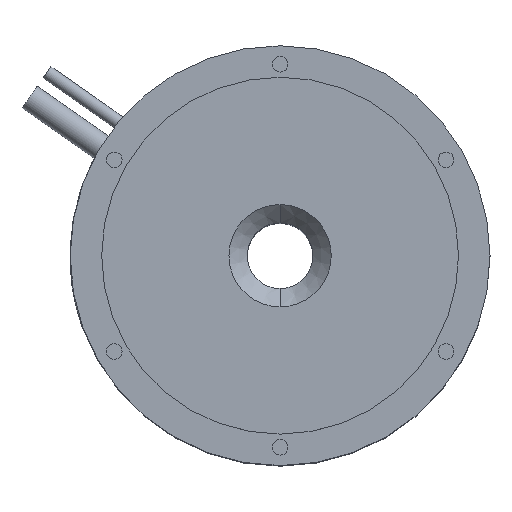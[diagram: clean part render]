
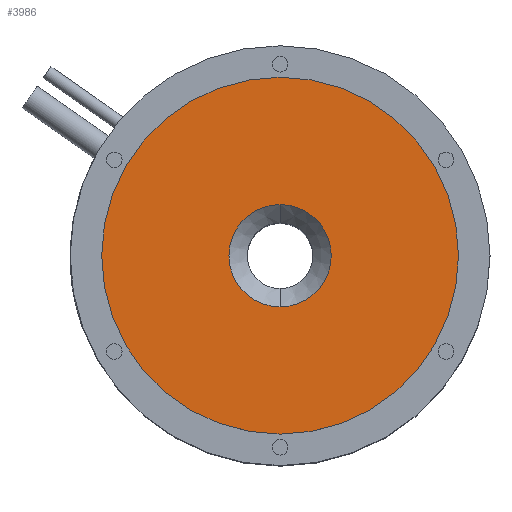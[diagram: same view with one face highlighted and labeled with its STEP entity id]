
A CAD part, top view. The second image highlights one B-rep face of the part: STEP entity #3986.
In plain terms, the highlighted planar face has unit normal (0, 0, 1).
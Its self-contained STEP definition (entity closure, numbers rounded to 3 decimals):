
#656 = VERTEX_POINT ( 'NONE', #5502 ) ;
#657 = VERTEX_POINT ( 'NONE', #5501 ) ;
#668 = EDGE_CURVE ( 'NONE', #656, #657, #5541, .T. ) ;
#946 = CARTESIAN_POINT ( 'NONE',  ( 0., 19.5, 143. ) ) ;
#968 = DIRECTION ( 'NONE',  ( 0., -1., 0. ) ) ;
#969 = DIRECTION ( 'NONE',  ( 0., 0., -1. ) ) ;
#970 = CARTESIAN_POINT ( 'NONE',  ( 0., 0., 143. ) ) ;
#971 = AXIS2_PLACEMENT_3D ( 'NONE', #970, #969, #968 ) ;
#973 = CIRCLE ( 'NONE', #971, 19.5 ) ;
#974 = CARTESIAN_POINT ( 'NONE',  ( 0., -19.5, 143. ) ) ;
#1562 = CIRCLE ( 'NONE', #1856, 68. ) ;
#1850 = DIRECTION ( 'NONE',  ( 0., 1., 0. ) ) ;
#1856 = AXIS2_PLACEMENT_3D ( 'NONE', #1861, #1868, #1850 ) ;
#1861 = CARTESIAN_POINT ( 'NONE',  ( 0., 0., 143. ) ) ;
#1868 = DIRECTION ( 'NONE',  ( 0., 0., -1. ) ) ;
#2034 = DIRECTION ( 'NONE',  ( 0., 0., -1. ) ) ;
#2035 = CARTESIAN_POINT ( 'NONE',  ( 0., 0., 143. ) ) ;
#2036 = AXIS2_PLACEMENT_3D ( 'NONE', #2035, #2034, #2090 ) ;
#2037 = DIRECTION ( 'NONE',  ( 0., -1., 0. ) ) ;
#2041 = FACE_OUTER_BOUND ( 'NONE', #4052, .T. ) ;
#2047 = CIRCLE ( 'NONE', #2036, 19.5 ) ;
#2052 = AXIS2_PLACEMENT_3D ( 'NONE', #2058, #2053, #2037 ) ;
#2053 = DIRECTION ( 'NONE',  ( 0., 0., 1. ) ) ;
#2058 = CARTESIAN_POINT ( 'NONE',  ( 0., -12.5, 143. ) ) ;
#2059 = FACE_BOUND ( 'NONE', #3977, .T. ) ;
#2061 = PLANE ( 'NONE',  #2052 ) ;
#2090 = DIRECTION ( 'NONE',  ( 0., -1., 0. ) ) ;
#3430 = VERTEX_POINT ( 'NONE', #946 ) ;
#3442 = VERTEX_POINT ( 'NONE', #974 ) ;
#3444 = EDGE_CURVE ( 'NONE', #3442, #3430, #973, .T. ) ;
#3977 = EDGE_LOOP ( 'NONE', ( #3982, #3985 ) ) ;
#3982 = ORIENTED_EDGE ( 'NONE', *, *, #3444, .T. ) ;
#3984 = ORIENTED_EDGE ( 'NONE', *, *, #668, .F. ) ;
#3985 = ORIENTED_EDGE ( 'NONE', *, *, #3987, .T. ) ;
#3986 = ADVANCED_FACE ( 'NONE', ( #2059, #2041 ), #2061, .T. ) ;
#3987 = EDGE_CURVE ( 'NONE', #3430, #3442, #2047, .T. ) ;
#4013 = EDGE_CURVE ( 'NONE', #657, #656, #1562, .T. ) ;
#4044 = ORIENTED_EDGE ( 'NONE', *, *, #4013, .F. ) ;
#4052 = EDGE_LOOP ( 'NONE', ( #3984, #4044 ) ) ;
#5501 = CARTESIAN_POINT ( 'NONE',  ( 0., -68., 143. ) ) ;
#5502 = CARTESIAN_POINT ( 'NONE',  ( 0., 68., 143. ) ) ;
#5530 = DIRECTION ( 'NONE',  ( 0., 1., 0. ) ) ;
#5531 = DIRECTION ( 'NONE',  ( 0., 0., -1. ) ) ;
#5532 = AXIS2_PLACEMENT_3D ( 'NONE', #5540, #5531, #5530 ) ;
#5540 = CARTESIAN_POINT ( 'NONE',  ( 0., 0., 143. ) ) ;
#5541 = CIRCLE ( 'NONE', #5532, 68. ) ;
